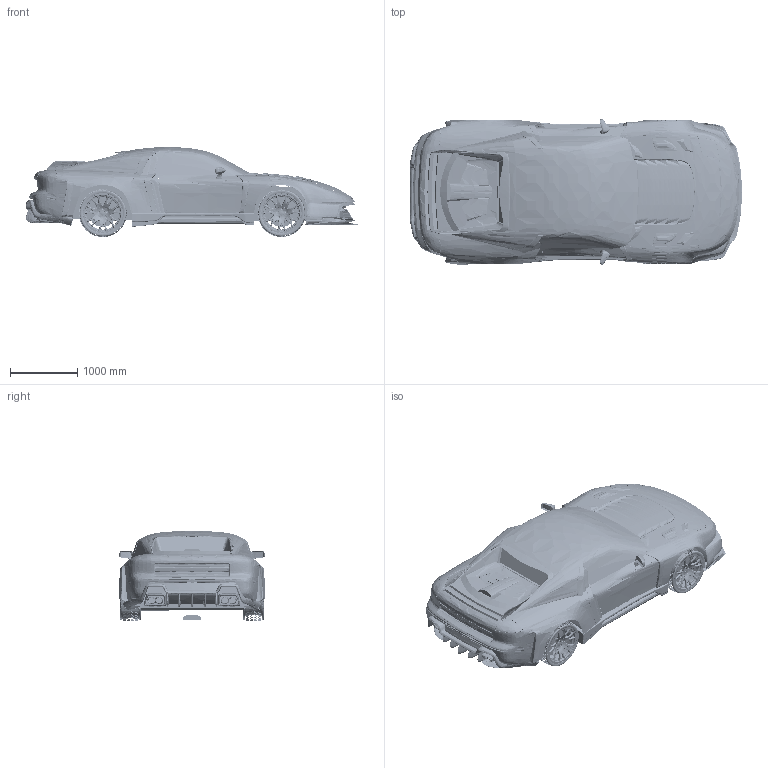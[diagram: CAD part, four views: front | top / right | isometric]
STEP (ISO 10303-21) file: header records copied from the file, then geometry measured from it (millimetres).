
FILE_DESCRIPTION(('CATIA V5 STEP Exchange'),'2;1');
FILE_NAME('D:\Documents and Settings\Administrator\My Documents\Projects\SlaDo Slava\GT car.stp','2011-11-05T18:01:38+00:00',('none'),('none'),'CATIA Version 5 Release 20 SP 5 (IN-10)','CATIA V5 STEP AP203','none');
FILE_SCHEMA(('CONFIG_CONTROL_DESIGN'));
Products named in the file (5): GT car; Product dashboard; Product2; SW3dPS-BBS9_5x19_265; Symmetry of SW3dPS-BBS9_5x19_265
Assembly tree (48 placements, depth 3):
  GT car
    Product dashboard
      #66
      #48562
      #48823
      #49201
      #49224
      #49625  x2
      #49744  x4
      #50056
      #50323  x4
      #50635
    #50873
    Product2
      #252638
      #252907
      #253744
      #254297
      #254732
      #255204
      #255774
      #256226
      #256698
      #256847
      #256946
      #257039
    SW3dPS-BBS9_5x19_265  x2
      #257153
      #345433
      #424698
    Symmetry of SW3dPS-BBS9_5x19_265  x2
      #431096
      #519376
      #598641
    #605061
    #828823
    #256698
    #834092
    #843111
    #1144139
Bounding box: 4944.04 x 2167.48 x 1341.98 mm (x, y, z)
Volume: 4991042.7 mm3; surface area: 95894095.7 mm2
Topology: 18 solids, 763 shells, 18359 faces, 52654 edges, 34388 vertices
Faces by surface type: bspline 10017, plane 6011, cylinder 821, cone 626, torus 592, revolution 238, sphere 40, extrusion 14
Entity records: 1150066 total; most frequent: CARTESIAN_POINT 937565, ORIENTED_EDGE 57593, EDGE_CURVE 32276, B_SPLINE_CURVE_WITH_KNOTS 25239, VERTEX_POINT 20658, DIRECTION 13753, EDGE_LOOP 12028, ADVANCED_FACE 11803
